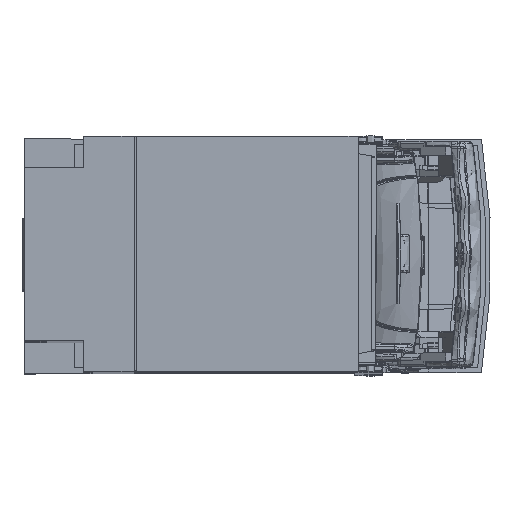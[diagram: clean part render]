
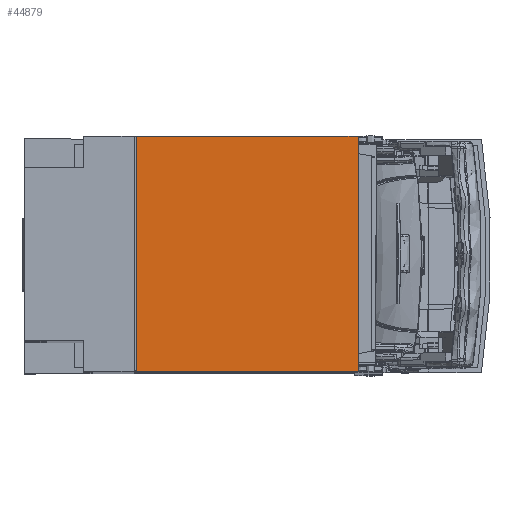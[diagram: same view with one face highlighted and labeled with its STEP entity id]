
A CAD part, top view. The second image highlights one B-rep face of the part: STEP entity #44879.
In plain terms, the highlighted planar face has unit normal (0, 0, 1).
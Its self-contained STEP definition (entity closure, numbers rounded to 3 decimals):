
#44879=ADVANCED_FACE('',(#55159),#52207,.F.);
#52207=PLANE('',#164893);
#55159=FACE_OUTER_BOUND('',#62520,.T.);
#62520=EDGE_LOOP('',(#78006,#78007,#78008,#78009));
#78006=ORIENTED_EDGE('',*,*,#128857,.T.);
#78007=ORIENTED_EDGE('',*,*,#128110,.F.);
#78008=ORIENTED_EDGE('',*,*,#127973,.F.);
#78009=ORIENTED_EDGE('',*,*,#127911,.F.);
#115603=VERTEX_POINT('',#200718);
#115604=VERTEX_POINT('',#200720);
#115658=VERTEX_POINT('',#200962);
#115791=VERTEX_POINT('',#201329);
#127911=EDGE_CURVE('',#115603,#115604,#147164,.T.);
#127973=EDGE_CURVE('',#115604,#115658,#147205,.T.);
#128110=EDGE_CURVE('',#115658,#115791,#147286,.T.);
#128857=EDGE_CURVE('',#115603,#115791,#148018,.T.);
#147164=LINE('',#200719,#155837);
#147205=LINE('',#200961,#155878);
#147286=LINE('',#201328,#155959);
#148018=LINE('',#202803,#156691);
#155837=VECTOR('',#173767,1.);
#155878=VECTOR('',#173844,1.);
#155959=VECTOR('',#174015,1.);
#156691=VECTOR('',#174897,1.);
#164893=AXIS2_PLACEMENT_3D('',#202804,#174898,#174899);
#173767=DIRECTION('',(1.,0.,0.));
#173844=DIRECTION('',(0.,-1.,0.));
#174015=DIRECTION('',(-1.,0.,0.));
#174897=DIRECTION('',(0.,-1.,0.));
#174898=DIRECTION('',(0.,0.,-1.));
#174899=DIRECTION('',(0.,1.,0.));
#200718=CARTESIAN_POINT('',(47.2,49.5,292.));
#200719=CARTESIAN_POINT('',(152.,49.5,292.));
#200720=CARTESIAN_POINT('',(140.5,49.5,292.));
#200961=CARTESIAN_POINT('',(140.5,49.5,292.));
#200962=CARTESIAN_POINT('',(140.5,-49.5,292.));
#201328=CARTESIAN_POINT('',(152.,-49.5,292.));
#201329=CARTESIAN_POINT('',(47.2,-49.5,292.));
#202803=CARTESIAN_POINT('',(47.2,49.3,292.));
#202804=CARTESIAN_POINT('',(152.,49.5,292.));
